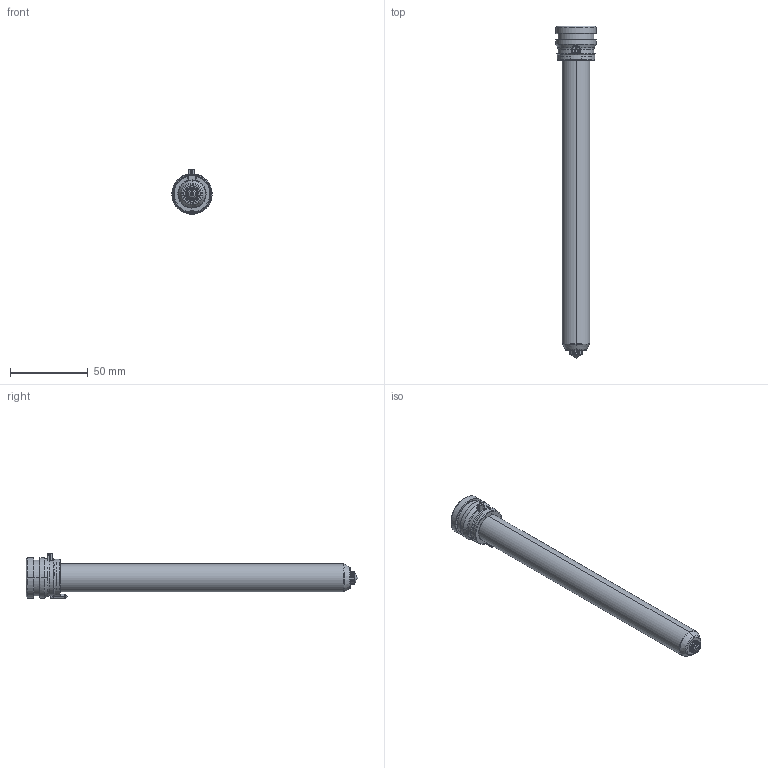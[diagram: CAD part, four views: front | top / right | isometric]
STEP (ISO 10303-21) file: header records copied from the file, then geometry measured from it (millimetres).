
FILE_DESCRIPTION((''),'2;1');
FILE_NAME('TH18196-A-1-PK-JG','2023-12-14T',('umhib'),('Thermoplay S.p.A.'),'PRO/ENGINEER BY PARAMETRIC TECHNOLOGY CORPORATION, 2017170','PRO/ENGINEER BY PARAMETRIC TECHNOLOGY CORPORATION, 2017170','');
FILE_SCHEMA(('CONFIG_CONTROL_DESIGN'));
Length unit declared in the file: millimetre
Products named in the file (1): TH18196-A-1-PK-JG
Bounding box: 26 x 214 x 29.5 mm (x, y, z)
Volume: 42135 mm3; surface area: 30595.5 mm2
Topology: 1 solids, 2 shells, 396 faces, 1032 edges, 641 vertices
Faces by surface type: cylinder 151, plane 85, cone 66, torus 56, bspline 24, sphere 12, extrusion 2
Entity records: 18034 total; most frequent: CARTESIAN_POINT 6134, ORIENTED_EDGE 2040, DIRECTION 2015, EDGE_CURVE 1022, AXIS2_PLACEMENT_3D 808, VERTEX_POINT 641, CIRCLE 437, EDGE_LOOP 416
